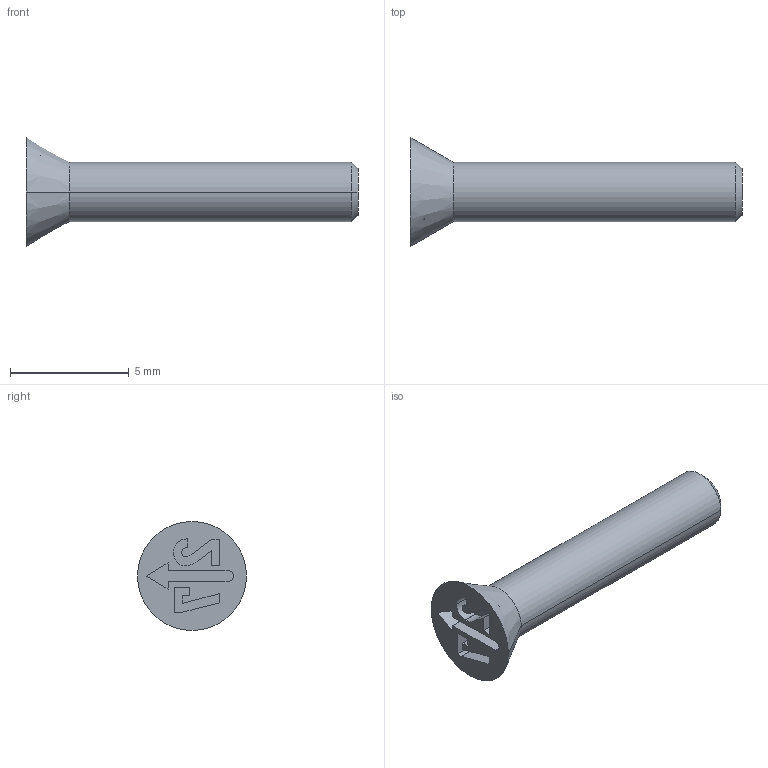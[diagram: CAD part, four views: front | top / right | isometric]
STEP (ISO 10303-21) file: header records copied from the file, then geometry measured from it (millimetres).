
FILE_DESCRIPTION (( 'STEP AP203' ), '1' );
FILE_NAME ('DTPRP08-27.step', '2026-01-23T22:32:38', ( '' ), ( '' ), 'SwSTEP 2.0', 'SolidWorks 2023', '' );
FILE_SCHEMA (( 'CONFIG_CONTROL_DESIGN' ));
Length unit declared in the file: millimetre
Products named in the file (1): DTPRP08-27
Bounding box: 14 x 4.6 x 4.6 mm (x, y, z)
Volume: 75.6 mm3; surface area: 153.1 mm2
Topology: 1 solids, 1 shells, 44 faces, 113 edges, 74 vertices
Faces by surface type: plane 31, bspline 6, cone 4, cylinder 3
Entity records: 1652 total; most frequent: CARTESIAN_POINT 534, ORIENTED_EDGE 226, DIRECTION 189, EDGE_CURVE 113, VECTOR 91, LINE 91, VERTEX_POINT 74, AXIS2_PLACEMENT_3D 49
